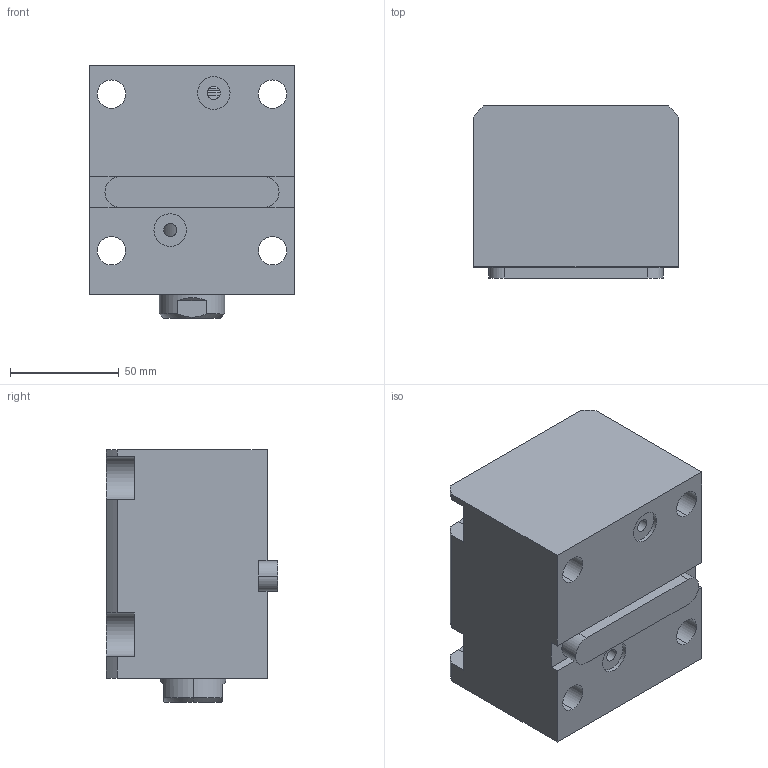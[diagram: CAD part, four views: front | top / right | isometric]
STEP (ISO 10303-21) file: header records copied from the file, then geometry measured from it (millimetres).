
FILE_DESCRIPTION (( 'STEP AP203' ), '1' );
FILE_NAME ('CHTB-LAM50-45N.STEP', '2018-05-23T10:25:17', ( '' ), ( '' ), 'SwSTEP 2.0', 'SolidWorks 2015', '' );
FILE_SCHEMA (( 'CONFIG_CONTROL_DESIGN' ));
Length unit declared in the file: millimetre
Products named in the file (4): 活塞杆LAM50-45N; 掛极LAM50-45N; CHTM-SDMA50QG; CHTB-LAM50-45N
Assembly tree (3 placements, depth 2):
  CHTB-LAM50-45N
    掛极LAM50-45N
    活塞杆LAM50-45N
    CHTM-SDMA50QG
Bounding box: 94 x 79 x 116 mm (x, y, z)
Volume: 619281.4 mm3; surface area: 109314.5 mm2
Topology: 3 solids, 3 shells, 192 faces, 524 edges, 347 vertices
Faces by surface type: cylinder 96, plane 51, torus 16, cone 15, bspline 14
Entity records: 11011 total; most frequent: CARTESIAN_POINT 5956, ORIENTED_EDGE 1036, DIRECTION 908, EDGE_CURVE 518, AXIS2_PLACEMENT_3D 356, VERTEX_POINT 347, EDGE_LOOP 221, LINE 196
